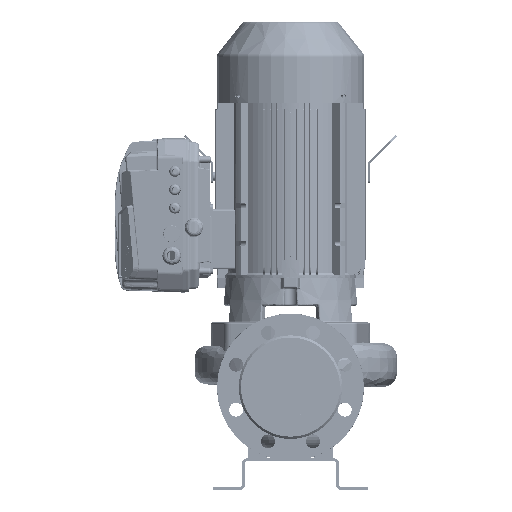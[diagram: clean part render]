
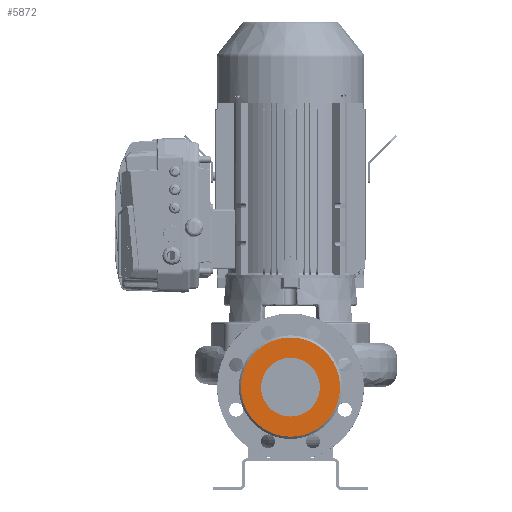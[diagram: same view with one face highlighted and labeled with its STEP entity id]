
A CAD part, front view. The second image highlights one B-rep face of the part: STEP entity #5872.
In plain terms, the highlighted planar face has unit normal (0, -1, 0) as drawn and (0, 1, 0) by its records, which use the part's own axes.
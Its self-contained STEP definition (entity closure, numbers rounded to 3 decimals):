
#5872=ADVANCED_FACE('',(#15197,#15198),#15199,.T.);
#5874=EDGE_CURVE('',#15201,#15202,#15203,.T.);
#5934=EDGE_CURVE('',#15311,#15312,#15313,.T.);
#6140=EDGE_CURVE('',#15624,#15311,#15625,.T.);
#6142=EDGE_CURVE('',#15312,#15624,#15627,.T.);
#6214=EDGE_CURVE('',#15202,#15201,#15705,.T.);
#15197=FACE_BOUND('',#33226,.T.);
#15198=FACE_OUTER_BOUND('',#33227,.T.);
#15199=PLANE('',#33228);
#15201=VERTEX_POINT('',#33231);
#15202=VERTEX_POINT('',#33232);
#15203=CIRCLE('',#33233,67.5);
#15311=VERTEX_POINT('',#33389);
#15312=VERTEX_POINT('',#33390);
#15313=CIRCLE('',#33391,40.);
#15624=VERTEX_POINT('',#33848);
#15625=CIRCLE('',#33849,40.);
#15627=CIRCLE('',#33852,40.);
#15705=CIRCLE('',#33985,67.5);
#33226=EDGE_LOOP('',(#102947,#102948,#102949));
#33227=EDGE_LOOP('',(#102950,#102951));
#33228=AXIS2_PLACEMENT_3D('',#102952,#102953,#102954);
#33231=CARTESIAN_POINT('',(0.,178.,-97.5));
#33232=CARTESIAN_POINT('',(0.,178.,37.5));
#33233=AXIS2_PLACEMENT_3D('',#102955,#102956,#102957);
#33389=CARTESIAN_POINT('',(0.,178.,10.));
#33390=CARTESIAN_POINT('',(0.,178.,-70.));
#33391=AXIS2_PLACEMENT_3D('',#103040,#103041,#103042);
#33848=CARTESIAN_POINT('',(14.674,178.,-67.211));
#33849=AXIS2_PLACEMENT_3D('',#103327,#103328,#103329);
#33852=AXIS2_PLACEMENT_3D('',#103330,#103331,#103332);
#33985=AXIS2_PLACEMENT_3D('',#103433,#103434,#103435);
#102947=ORIENTED_EDGE('',*,*,#6140,.T.);
#102948=ORIENTED_EDGE('',*,*,#5934,.T.);
#102949=ORIENTED_EDGE('',*,*,#6142,.T.);
#102950=ORIENTED_EDGE('',*,*,#5874,.F.);
#102951=ORIENTED_EDGE('',*,*,#6214,.F.);
#102952=CARTESIAN_POINT('',(42.898,178.,-4.315));
#102953=DIRECTION('',(0.,1.0,0.));
#102954=DIRECTION('',(0.,0.,1.0));
#102955=CARTESIAN_POINT('',(0.,178.,-30.));
#102956=DIRECTION('',(0.,-1.0,0.));
#102957=DIRECTION('',(0.,0.,-1.0));
#103040=CARTESIAN_POINT('',(0.,178.,-30.));
#103041=DIRECTION('',(0.,-1.0,0.));
#103042=DIRECTION('',(0.367,0.,-0.93));
#103327=CARTESIAN_POINT('',(0.,178.,-30.));
#103328=DIRECTION('',(0.,-1.0,0.));
#103329=DIRECTION('',(0.367,0.,-0.93));
#103330=CARTESIAN_POINT('',(0.,178.,-30.));
#103331=DIRECTION('',(0.,-1.0,0.));
#103332=DIRECTION('',(0.367,0.,-0.93));
#103433=CARTESIAN_POINT('',(0.,178.,-30.));
#103434=DIRECTION('',(0.,-1.0,0.));
#103435=DIRECTION('',(0.,0.,-1.0));
